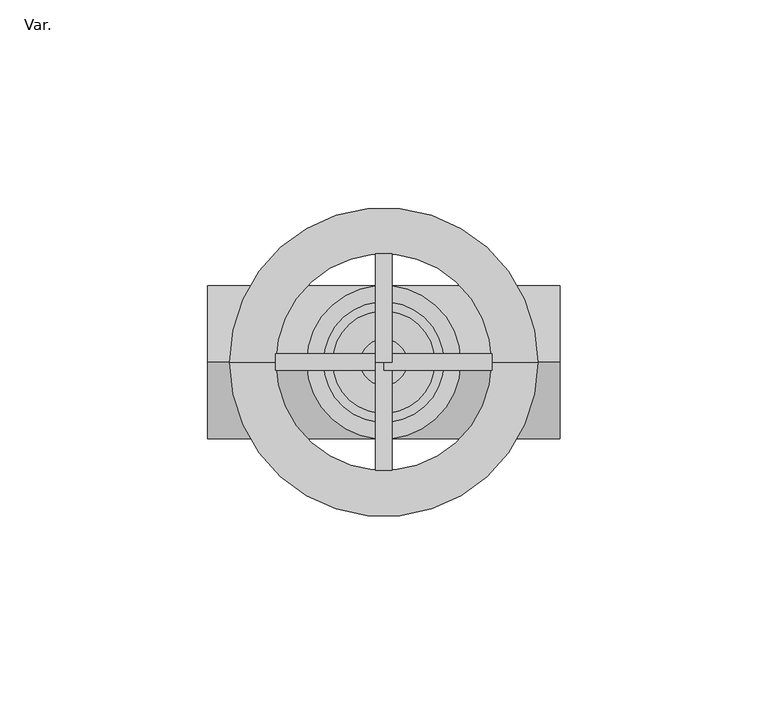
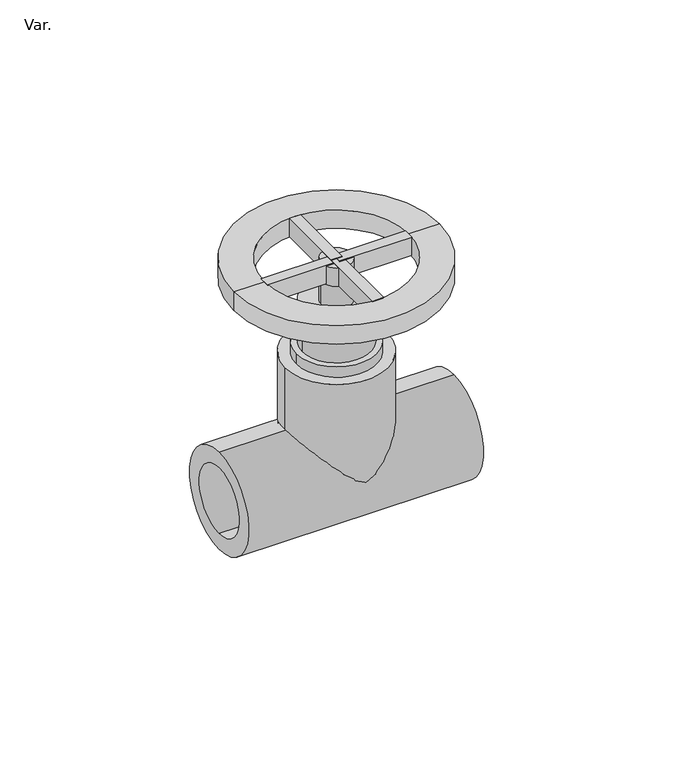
"""IFC4 building model written with IfcOpenShell, lengths in millimetres: pipe fitting geometry, PlastigamaWavin_Unionesdetubería_TermomaxLLavedePasoAzul20mm-63mm : Var.."""

from ifc_helpers import new_model, si_unit, point, frame, origin, origin_with_axes, origin_2d, place, context, project, spatial, polyline, circle_curve, trimmed, segment, composite_curve, outline, extrude, source, transform, mapped, element, save
from ifc_brep_helpers import plane_surface, cylinder_surface, revolved_surface, advanced_brep


def var_fd3edec3(model_context):
    return source(origin(), model_context, "Body", "SolidModel", [
        extrude(outline(polyline([(-1.98, 0.0), (-1.98, 26.05), (1.98, 26.05), (1.98, 0.0), (-1.98, 0.0)])), frame((0.0, 0.0, 70.85), z_axis=(0.0, 0.0, 1.0), x_axis=(1.0, 0.0, 0.0)), (0.0, 0.0, 1.0), 7.0),
        extrude(outline(polyline([(0.0, -1.98), (0.0, 1.98), (26.05, 1.98), (26.05, -1.98), (0.0, -1.98)])), frame((0.0, 0.0, 70.85), z_axis=(0.0, 0.0, 1.0), x_axis=(1.0, 0.0, 0.0)), (0.0, 0.0, 1.0), 7.0),
        extrude(outline(polyline([(-1.98, -26.05), (-1.98, 0.0), (1.98, 0.0), (1.98, -26.05), (-1.98, -26.05)])), frame((0.0, 0.0, 70.85), z_axis=(0.0, 0.0, 1.0), x_axis=(1.0, 0.0, 0.0)), (0.0, 0.0, 1.0), 7.0),
        extrude(outline(polyline([(-26.05, 1.98), (0.0, 1.98), (0.0, -1.98), (-26.05, -1.98), (-26.05, 1.98)])), frame((0.0, 0.0, 70.85), z_axis=(0.0, 0.0, 1.0), x_axis=(1.0, 0.0, 0.0)), (0.0, 0.0, 1.0), 7.0),
        advanced_brep(
        [(-42.38, 0.0, -18.5563194), (-42.38, 0.0, 18.4636806), (-42.38, 0.0, -12.5), (-42.38, 0.0, 12.5), (42.38, 0.0, -18.5563194), (42.38, 0.0, 18.4636806), (42.38, 0.0, -12.5), (42.38, 0.0, 12.5), (23.98, 0.0, 12.5), (23.98, 0.0, -12.5), (-23.98, 0.0, 12.5), (-23.98, 0.0, -12.5)],
        [
            (0, 1, circle_curve(frame((-42.38, 0.0, -0.0463194), z_axis=(-1.0, 0.0, 0.0), x_axis=(0.0, 0.0, 1.0)), 18.51)),
            (1, 0, circle_curve(frame((-42.38, 0.0, -0.0463194), z_axis=(-1.0, 0.0, 0.0), x_axis=(0.0, 0.0, 1.0)), 18.51)),
            (2, 3, circle_curve(frame((-42.38, 0.0, 0.0), z_axis=(1.0, 0.0, 0.0), x_axis=(0.0, 0.0, -1.0)), 12.5)),
            (3, 2, circle_curve(frame((-42.38, 0.0, 0.0), z_axis=(1.0, 0.0, 0.0), x_axis=(0.0, 0.0, -1.0)), 12.5)),
            (4, 5, circle_curve(frame((42.38, 0.0, -0.0463194), z_axis=(1.0, 0.0, 0.0), x_axis=(0.0, 0.0, 1.0)), 18.51)),
            (5, 4, circle_curve(frame((42.38, 0.0, -0.0463194), z_axis=(1.0, 0.0, 0.0), x_axis=(0.0, 0.0, 1.0)), 18.51)),
            (6, 7, circle_curve(frame((42.38, 0.0, 0.0), z_axis=(-1.0, 0.0, 0.0), x_axis=(0.0, 0.0, -1.0)), 12.5)),
            (7, 6, circle_curve(frame((42.38, 0.0, 0.0), z_axis=(-1.0, 0.0, 0.0), x_axis=(0.0, 0.0, -1.0)), 12.5)),
            (0, 4),
            (5, 1),
            (8, 9, circle_curve(frame((23.98, 0.0, 0.0), z_axis=(1.0, 0.0, 0.0), x_axis=(0.0, 0.0, -1.0)), 12.5)),
            (9, 8, circle_curve(frame((23.98, 0.0, 0.0), z_axis=(1.0, 0.0, 0.0), x_axis=(0.0, 0.0, -1.0)), 12.5)),
            (8, 7),
            (6, 9),
            (10, 11, circle_curve(frame((-23.98, 0.0, 0.0), z_axis=(-1.0, 0.0, 0.0), x_axis=(0.0, 0.0, -1.0)), 12.5)),
            (11, 10, circle_curve(frame((-23.98, 0.0, 0.0), z_axis=(-1.0, 0.0, 0.0), x_axis=(0.0, 0.0, -1.0)), 12.5)),
            (10, 3),
            (2, 11),
        ],
        [
            plane_surface(frame((-42.38, 0.0, 18.4636806), z_axis=(-1.0, 0.0, 0.0), x_axis=(0.0, 1.0, 0.0))),
            plane_surface(frame((42.38, 0.0, 18.4636806), z_axis=(1.0, 0.0, 0.0), x_axis=(0.0, -1.0, 0.0))),
            cylinder_surface(frame((42.38, 0.0, -0.0463194), z_axis=(-1.0, 0.0, 0.0), x_axis=(0.0, 0.0, 1.0)), 18.51),
            plane_surface(frame((23.98, 0.0, -12.5), z_axis=(1.0, 0.0, 0.0), x_axis=(0.0, -1.0, 0.0))),
            revolved_surface(polyline([(42.38, 0.0, -12.5), (23.98, 0.0, -12.5)]), (23.98, 0.0, 0.0), (1.0, 0.0, 0.0)),
            plane_surface(frame((-23.98, 0.0, -12.5), z_axis=(-1.0, 0.0, 0.0), x_axis=(0.0, 1.0, 0.0))),
            revolved_surface(polyline([(-42.38, 0.0, -12.5), (-23.98, 0.0, -12.5)]), (-23.98, 0.0, 0.0), (-1.0, 0.0, 0.0)),
        ],
        [
            (0, [[1, 2], [3, 4]]),
            (1, [[5, 6], [7, 8]]),
            (2, [[-1, 9, -6, 10]]),
            (2, [[-2, -10, -5, -9]]),
            (3, [[11, 12]]),
            (4, [[-11, 13, -7, 14]]),
            (4, [[-12, -14, -8, -13]]),
            (5, [[15, 16]]),
            (6, [[-15, 17, -3, 18]]),
            (6, [[-16, -18, -4, -17]]),
        ],
    ),
        extrude(outline(composite_curve([segment(trimmed(circle_curve(origin_2d(), 5.54), [point((-5.54, 0.0))], [point((5.54, 0.0))], False, "CARTESIAN"), True, "CONTINUOUS"), segment(trimmed(circle_curve(origin_2d(), 5.54), [point((5.54, 0.0))], [point((-5.54, 0.0))], False, "CARTESIAN"), True, "CONTINUOUS")], self_intersect=False)), frame((0.0, 0.0, 70.85), z_axis=(0.0, 0.0, 1.0), x_axis=(1.0, 0.0, 0.0)), (0.0, 0.0, 1.0), 7.0),
        advanced_brep(
        [(37.13, 0.0, 70.85), (-37.13, 0.0, 70.85), (-37.13, 0.0, 77.85), (37.13, 0.0, 77.85), (26.05, 0.0, 70.85), (-26.05, 0.0, 70.85), (26.05, 0.0, 77.85), (-26.05, 0.0, 77.85)],
        [
            (0, 1, circle_curve(frame((0.0, 0.0, 70.85), z_axis=(0.0, 0.0, 1.0), x_axis=(-1.0, 0.0, 0.0)), 37.13)),
            (1, 2),
            (2, 3, circle_curve(frame((0.0, 0.0, 77.85), z_axis=(0.0, 0.0, -1.0), x_axis=(-1.0, 0.0, 0.0)), 37.13)),
            (3, 0),
            (1, 0, circle_curve(frame((0.0, 0.0, 70.85), z_axis=(0.0, 0.0, 1.0), x_axis=(-1.0, 0.0, 0.0)), 37.13)),
            (3, 2, circle_curve(frame((0.0, 0.0, 77.85), z_axis=(0.0, 0.0, -1.0), x_axis=(-1.0, 0.0, 0.0)), 37.13)),
            (4, 5, circle_curve(frame((0.0, 0.0, 70.85), z_axis=(0.0, 0.0, 1.0), x_axis=(-1.0, 0.0, 0.0)), 26.05)),
            (5, 1),
            (0, 4),
            (5, 4, circle_curve(frame((0.0, 0.0, 70.85), z_axis=(0.0, 0.0, 1.0), x_axis=(-1.0, 0.0, 0.0)), 26.05)),
            (6, 7, circle_curve(frame((0.0, 0.0, 77.85), z_axis=(0.0, 0.0, 1.0), x_axis=(-1.0, 0.0, 0.0)), 26.05)),
            (7, 5),
            (4, 6),
            (7, 6, circle_curve(frame((0.0, 0.0, 77.85), z_axis=(0.0, 0.0, 1.0), x_axis=(-1.0, 0.0, 0.0)), 26.05)),
            (2, 7),
            (6, 3),
        ],
        [
            cylinder_surface(frame((0.0, 0.0, 2214.3150031), z_axis=(0.0, 0.0, -1.0), x_axis=(-1.0, 0.0, 0.0)), 37.13),
            plane_surface(frame((0.0, 0.0, 70.85), z_axis=(0.0, 0.0, -1.0), x_axis=(-1.0, 0.0, 0.0))),
            revolved_surface(polyline([(-26.05, 0.0, 70.84999999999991), (-26.05, 0.0, 77.84999999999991)]), (0.0, 0.0, 2214.3150031), (0.0, 0.0, -1.0)),
            plane_surface(frame((0.0, 0.0, 77.85), z_axis=(0.0, 0.0, 1.0), x_axis=(-1.0, 0.0, 0.0))),
        ],
        [
            (0, [[1, 2, 3, 4]]),
            (0, [[5, -4, 6, -2]]),
            (1, [[7, 8, -1, 9]]),
            (1, [[10, -9, -5, -8]]),
            (2, [[11, 12, -7, 13]]),
            (2, [[14, -13, -10, -12]]),
            (3, [[-3, 15, -11, 16]]),
            (3, [[-6, -16, -14, -15]]),
        ],
    ),
        extrude(outline(composite_curve([segment(trimmed(circle_curve(origin_2d(), 5.54), [point((-5.54, 0.0))], [point((5.54, 0.0))], False, "CARTESIAN"), True, "CONTINUOUS"), segment(trimmed(circle_curve(origin_2d(), 5.54), [point((5.54, 0.0))], [point((-5.54, 0.0))], False, "CARTESIAN"), True, "CONTINUOUS")], self_intersect=False)), frame((0.0, 0.0, 62.22), z_axis=(0.0, 0.0, 1.0), x_axis=(1.0, 0.0, 0.0)), (0.0, 0.0, 1.0), 8.63),
        extrude(outline(composite_curve([segment(trimmed(circle_curve(origin_2d(), 12.295), [point((-12.295, 0.0))], [point((12.295, 0.0))], False, "CARTESIAN"), True, "CONTINUOUS"), segment(trimmed(circle_curve(origin_2d(), 12.295), [point((12.295, 0.0))], [point((-12.295, 0.0))], False, "CARTESIAN"), True, "CONTINUOUS")], self_intersect=False)), frame((0.0, 0.0, 46.39), z_axis=(0.0, 0.0, 1.0), x_axis=(1.0, 0.0, 0.0)), (0.0, 0.0, 1.0), 15.83),
        extrude(outline(composite_curve([segment(trimmed(circle_curve(origin_2d(), 14.48), [point((-14.48, 0.0))], [point((14.48, 0.0))], False, "CARTESIAN"), True, "CONTINUOUS"), segment(trimmed(circle_curve(origin_2d(), 14.48), [point((14.48, 0.0))], [point((-14.48, 0.0))], False, "CARTESIAN"), True, "CONTINUOUS")], self_intersect=False)), frame((0.0, 0.0, 42.43), z_axis=(0.0, 0.0, 1.0), x_axis=(1.0, 0.0, 0.0)), (0.0, 0.0, 1.0), 3.96),
        extrude(outline(composite_curve([segment(trimmed(circle_curve(origin_2d(), 18.51), [point((-18.51, 0.0))], [point((18.51, 0.0))], False, "CARTESIAN"), True, "CONTINUOUS"), segment(trimmed(circle_curve(origin_2d(), 18.51), [point((18.51, 0.0))], [point((-18.51, 0.0))], False, "CARTESIAN"), True, "CONTINUOUS")], self_intersect=False)), origin_with_axes(), (0.0, 0.0, 1.0), 42.43),
    ])


if __name__ == "__main__":
    model = new_model("IFC4")
    model_context = context("Model", 3, world=origin())
    ifc_project = project(units=[si_unit("LENGTHUNIT", "METRE", prefix="MILLI")], contexts=[model_context])
    site = spatial("IfcSite", under=ifc_project)
    building = spatial("IfcBuilding", under=site)
    placement = place(None, origin())
    var_shape = var_fd3edec3(model_context)
    element("IfcPipeFitting", 1, ObjectType="PlastigamaWavin_Unionesdetubería_TermomaxLLavedePasoAzul20mm-63mm : Var.", at=placement, inside=building, context=model_context, shape_type="MappedRepresentation", body=[
        mapped(var_shape, transform((0.0, 0.0, 0.0), x_axis=(1.0, 0.0, 0.0), y_axis=(0.0, 1.0, 0.0), z_axis=(0.0, 0.0, 1.0))),
    ])
    save(model, "model.ifc")
